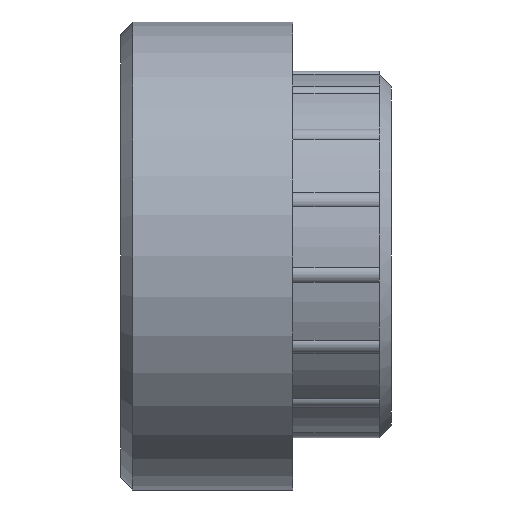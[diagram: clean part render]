
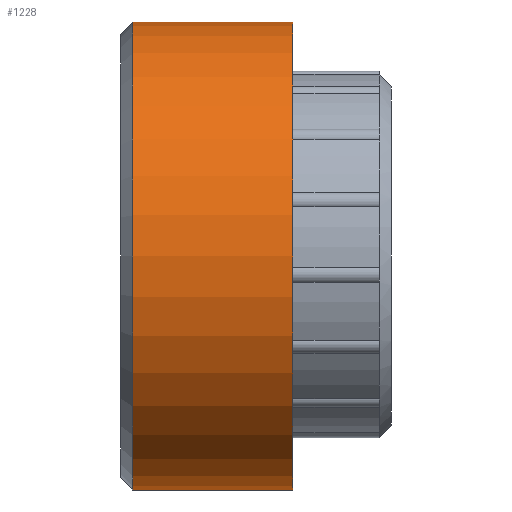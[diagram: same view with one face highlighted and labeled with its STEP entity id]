
A CAD part, left-side view. The second image highlights one B-rep face of the part: STEP entity #1228.
In plain terms, the highlighted cylindrical face has radius 9.5 mm (diameter 19 mm), a partial arc.
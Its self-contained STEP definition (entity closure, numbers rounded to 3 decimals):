
#17 = CARTESIAN_POINT ( 'NONE',  ( 0., -1.5, 9.5 ) ) ;
#29 = CARTESIAN_POINT ( 'NONE',  ( 0., -1.5, -9.5 ) ) ;
#235 = DIRECTION ( 'NONE',  ( 0., -1., 0. ) ) ;
#259 = CARTESIAN_POINT ( 'NONE',  ( 0., 5., 0. ) ) ;
#266 = DIRECTION ( 'NONE',  ( 0., 0., 1. ) ) ;
#327 = CIRCLE ( 'NONE', #1656, 9.5 ) ;
#329 = EDGE_CURVE ( 'NONE', #1558, #1271, #1439, .T. ) ;
#365 = CARTESIAN_POINT ( 'NONE',  ( 0., -1.5, 0. ) ) ;
#372 = DIRECTION ( 'NONE',  ( 0., -1., 0. ) ) ;
#437 = EDGE_CURVE ( 'NONE', #944, #1139, #1392, .T. ) ;
#441 = DIRECTION ( 'NONE',  ( 0., 0., -1. ) ) ;
#548 = CYLINDRICAL_SURFACE ( 'NONE', #1472, 9.5 ) ;
#591 = FACE_OUTER_BOUND ( 'NONE', #1483, .T. ) ;
#655 = CARTESIAN_POINT ( 'NONE',  ( 0., 5., -9.5 ) ) ;
#656 = CARTESIAN_POINT ( 'NONE',  ( 0., 5.5, 9.5 ) ) ;
#678 = DIRECTION ( 'NONE',  ( 0., -1., 0. ) ) ;
#944 = VERTEX_POINT ( 'NONE', #655 ) ;
#950 = DIRECTION ( 'NONE',  ( 0., -1., 0. ) ) ;
#951 = CARTESIAN_POINT ( 'NONE',  ( 0., 5.5, 0. ) ) ;
#1029 = ORIENTED_EDGE ( 'NONE', *, *, #437, .T. ) ;
#1035 = VECTOR ( 'NONE', #1475, 1000. ) ;
#1064 = DIRECTION ( 'NONE',  ( 0., 0., -1. ) ) ;
#1073 = CARTESIAN_POINT ( 'NONE',  ( 0., 5., 9.5 ) ) ;
#1139 = VERTEX_POINT ( 'NONE', #29 ) ;
#1154 = EDGE_CURVE ( 'NONE', #1558, #944, #327, .T. ) ;
#1164 = EDGE_CURVE ( 'NONE', #1271, #1139, #1408, .T. ) ;
#1228 = ADVANCED_FACE ( 'NONE', ( #591 ), #548, .T. ) ;
#1271 = VERTEX_POINT ( 'NONE', #17 ) ;
#1389 = ORIENTED_EDGE ( 'NONE', *, *, #1154, .T. ) ;
#1392 = LINE ( 'NONE', #1413, #1035 ) ;
#1408 = CIRCLE ( 'NONE', #1633, 9.5 ) ;
#1413 = CARTESIAN_POINT ( 'NONE',  ( 0., 5.5, -9.5 ) ) ;
#1439 = LINE ( 'NONE', #656, #1758 ) ;
#1472 = AXIS2_PLACEMENT_3D ( 'NONE', #951, #950, #1064 ) ;
#1475 = DIRECTION ( 'NONE',  ( 0., -1., 0. ) ) ;
#1483 = EDGE_LOOP ( 'NONE', ( #1734, #1389, #1029, #1696 ) ) ;
#1558 = VERTEX_POINT ( 'NONE', #1073 ) ;
#1633 = AXIS2_PLACEMENT_3D ( 'NONE', #365, #372, #441 ) ;
#1656 = AXIS2_PLACEMENT_3D ( 'NONE', #259, #235, #266 ) ;
#1696 = ORIENTED_EDGE ( 'NONE', *, *, #1164, .F. ) ;
#1734 = ORIENTED_EDGE ( 'NONE', *, *, #329, .F. ) ;
#1758 = VECTOR ( 'NONE', #678, 1000. ) ;
